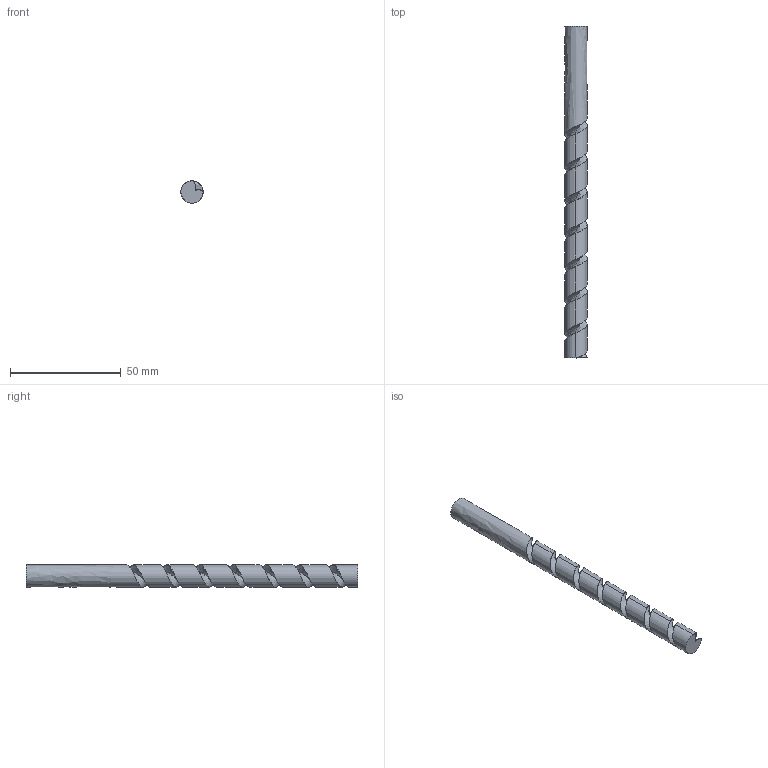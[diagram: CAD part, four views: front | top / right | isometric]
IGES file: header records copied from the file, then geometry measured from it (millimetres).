
Start section: Data from Parasolid IGES Translator 21.0.47, Copyright(c) 2006 Siemens P LM Software. All Rights Reserved.
Global section: file name: 5a744cfea5735f1002762f85.iges; native system: By Siemens PLM Incorporated; preprocessor: XPlus GENERIC/IGES 21.0.47; author: Noname; organization: Noname; date: 20180202.113527; units: metre
Bounding box: 10 x 150 x 10 mm (x, y, z)
Surface area: 5534.7 mm2 (no closed solid volume)
Topology: 0 solids, 0 shells, 13 faces, 396 edges, 396 vertices
Faces by surface type: revolution 8, extrusion 3, bspline 2
